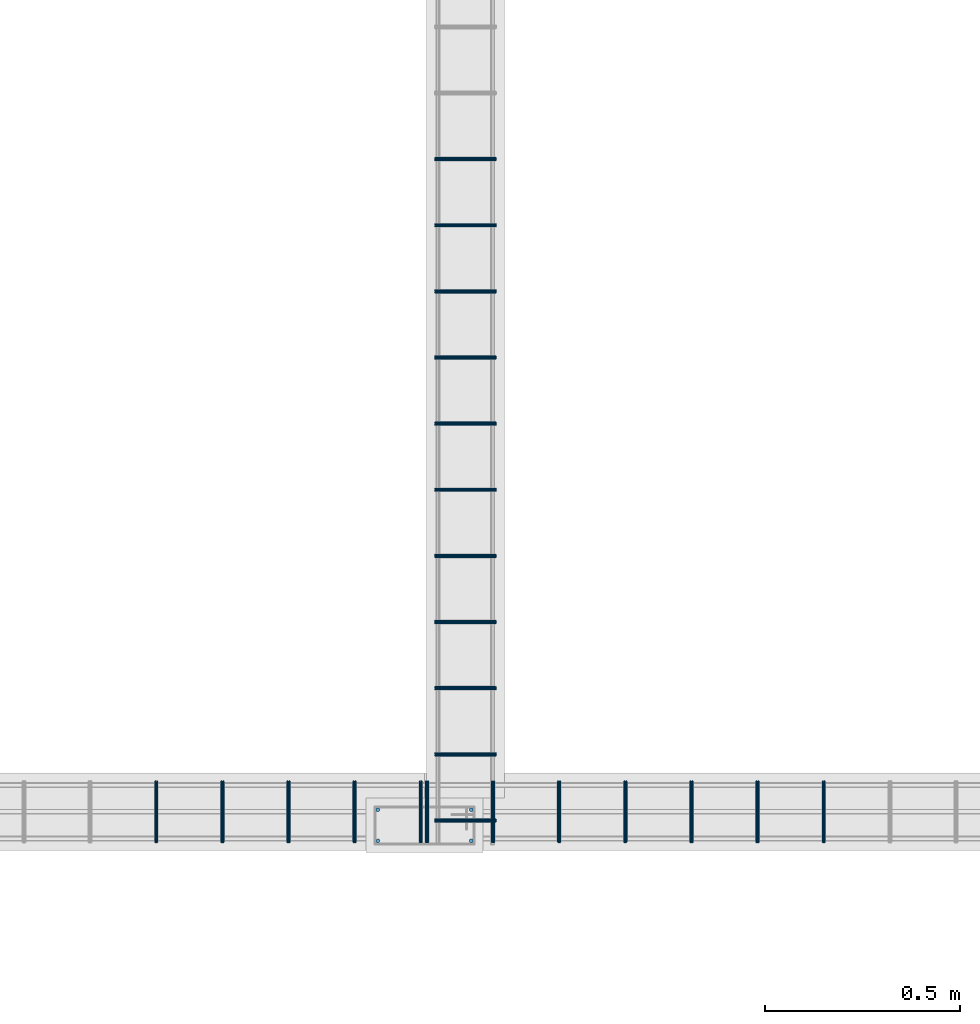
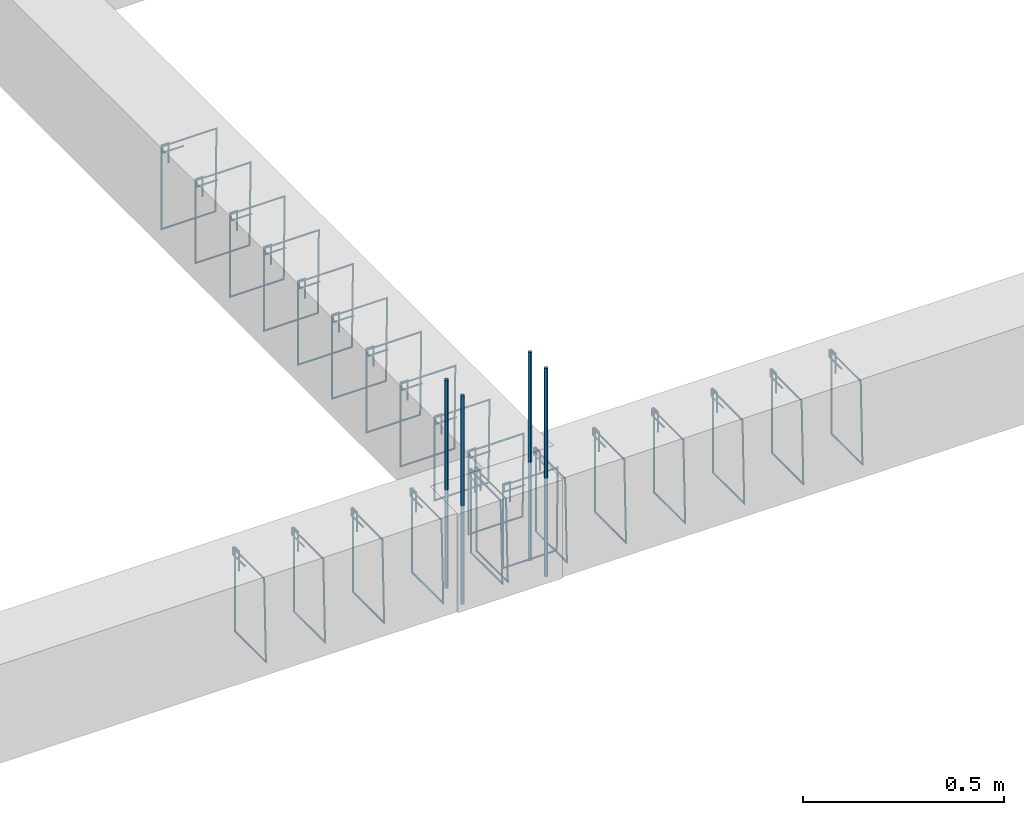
# One storey, part 27 of 150: 27 reinforcing bars.
"""IFC4 building model written with IfcOpenShell, lengths in centimetres."""

from ifc_helpers import new_model, entity, si_unit, derived_unit, frame, origin_with_axes, place, context, project, spatial, source, transform, mapped, element, save


model = new_model("IFC4")

# Units and contexts
model_context = context("Model", 3, precision=1e-05, world=origin_with_axes(), identifier="Body")
ifc_project = project(units=[si_unit("LENGTHUNIT", "METRE", prefix="CENTI"), si_unit("VOLUMEUNIT", "CUBIC_METRE"), si_unit("AREAUNIT", "SQUARE_METRE"), si_unit("POWERUNIT", "WATT"), si_unit("LUMINOUSFLUXUNIT", "LUMEN"), si_unit("ELECTRICCURRENTUNIT", "AMPERE"), si_unit("PRESSUREUNIT", "PASCAL", prefix="KILO"), si_unit("MASSUNIT", "GRAM", prefix="KILO"), si_unit("PLANEANGLEUNIT", "RADIAN"), derived_unit("VOLUMETRICFLOWRATEUNIT", [(si_unit("LENGTHUNIT", "METRE"), 3), (si_unit("TIMEUNIT", "SECOND"), -1)])], contexts=[model_context])

# Site, building, storey
site_placement = place(None, frame((-4000.0, 0.0, 0.0), z_axis=(0.0, 0.0, 1.0), x_axis=(1.0, 0.0, 0.0)))
site = spatial("IfcSite", under=ifc_project, at=site_placement, Name="PADRÃO")
building_placement = place(site_placement, frame((0.0, 0.0, -14.0)))
building = spatial("IfcBuilding", under=site, at=building_placement, Name="CRECHE PRÉ-ESCOLA TIPO 2")
placement = place(building_placement, origin_with_axes())
storey_placement = place(placement, frame((0.0, 0.0, 30.0), z_axis=(0.0, 0.0, 1.0), x_axis=(1.0, 0.0, 0.0)))
storey = spatial("IfcBuildingStorey", under=building, at=storey_placement, Name="VIGA BALDRAME", CompositionType="ELEMENT", Elevation=16.0)

# Reinforcing bars
shared_shape_1 = source(origin_with_axes(), model_context, "Body", "AdvancedSweptSolid", [
    entity("IfcSweptDiskSolid", entity("IfcCompositeCurve", [entity("IfcCompositeCurveSegment", "CONTINUOUS", True, entity("IfcPolyline", [entity("IfcCartesianPoint", [2.0, -6.0, 0.0]), entity("IfcCartesianPoint", [2.0, 0.0, 0.0])])), entity("IfcCompositeCurveSegment", "CONTINUOUS", True, entity("IfcPolyline", [entity("IfcCartesianPoint", [2.0, 0.0, 0.0]), entity("IfcCartesianPoint", [0.0, 0.0, 0.0])])), entity("IfcCompositeCurveSegment", "CONTINUOUS", True, entity("IfcPolyline", [entity("IfcCartesianPoint", [0.0, 0.0, 0.0]), entity("IfcCartesianPoint", [0.0, -25.5, 0.0])])), entity("IfcCompositeCurveSegment", "CONTINUOUS", True, entity("IfcPolyline", [entity("IfcCartesianPoint", [0.0, -25.5, 0.0]), entity("IfcCartesianPoint", [15.5, -25.5, 0.0])])), entity("IfcCompositeCurveSegment", "CONTINUOUS", True, entity("IfcPolyline", [entity("IfcCartesianPoint", [15.5, -25.5, 0.0]), entity("IfcCartesianPoint", [15.5, 0.0, 0.5])])), entity("IfcCompositeCurveSegment", "CONTINUOUS", True, entity("IfcPolyline", [entity("IfcCartesianPoint", [15.5, 0.0, 0.5]), entity("IfcCartesianPoint", [0.0, 0.0, 0.5])])), entity("IfcCompositeCurveSegment", "CONTINUOUS", True, entity("IfcPolyline", [entity("IfcCartesianPoint", [0.0, 0.0, 0.5]), entity("IfcCartesianPoint", [0.0, -2.0, 0.5])])), entity("IfcCompositeCurveSegment", "CONTINUOUS", True, entity("IfcPolyline", [entity("IfcCartesianPoint", [0.0, -2.0, 0.5]), entity("IfcCartesianPoint", [6.0, -2.0, 0.5])]))], False), 0.25),
])
for number, where, z_axis, x_axis, name in (
    (1, (687.75, 1131.005, -2.25), (0.0, -1.0, 0.0), (1.0, 0.0, 0.0), "V175 - Estribo"),
    (2, (687.75, 1199.005, -2.25), (0.0, -1.0, 0.0), (1.0, 0.0, 0.0), "V175 - Estribo"),
    (3, (687.75, 1029.005, -2.25), (0.0, -1.0, 0.0), (1.0, 0.0, 0.0), "V175 - Estribo"),
    (4, (687.75, 1046.005, -2.25), (0.0, -1.0, 0.0), (1.0, 0.0, 0.0), "V175 - Estribo"),
    (5, (687.75, 1063.005, -2.25), (0.0, -1.0, 0.0), (1.0, 0.0, 0.0), "V175 - Estribo"),
    (6, (687.75, 1080.005, -2.25), (0.0, -1.0, 0.0), (1.0, 0.0, 0.0), "V175 - Estribo"),
    (7, (687.75, 1097.005, -2.25), (0.0, -1.0, 0.0), (1.0, 0.0, 0.0), "V175 - Estribo"),
    (8, (687.75, 1182.005, -2.25), (0.0, -1.0, 0.0), (1.0, 0.0, 0.0), "V175 - Estribo"),
    (9, (687.75, 1165.005, -2.25), (0.0, -1.0, 0.0), (1.0, 0.0, 0.0), "V175 - Estribo"),
    (10, (687.75, 1114.005, -2.25), (0.0, -1.0, 0.0), (1.0, 0.0, 0.0), "V175 - Estribo"),
    (11, (687.75, 1148.005, -2.25), (0.0, -1.0, 0.0), (1.0, 0.0, 0.0), "V175 - Estribo"),
):
    element("IfcReinforcingBar", number, at=place(storey_placement, frame(where, z_axis=z_axis, x_axis=x_axis)), inside=storey, Name=name, BarLength=0.0, CrossSectionArea=1.9634954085e-05, NominalDiameter=0.5, PredefinedType="MAIN", context=model_context, shape_type="MappedRepresentation", body=[
        mapped(shared_shape_1, transform((0.0, 0.0, 0.0), scale=1.0)),
    ])
shared_shape_2 = source(origin_with_axes(), model_context, "Body", "AdvancedSweptSolid", [
    entity("IfcSweptDiskSolid", entity("IfcCompositeCurve", [entity("IfcCompositeCurveSegment", "CONTINUOUS", True, entity("IfcPolyline", [entity("IfcCartesianPoint", [2.0, -6.0, 0.0]), entity("IfcCartesianPoint", [2.0, 0.0, 0.0])])), entity("IfcCompositeCurveSegment", "CONTINUOUS", True, entity("IfcPolyline", [entity("IfcCartesianPoint", [2.0, 0.0, 0.0]), entity("IfcCartesianPoint", [0.0, 0.0, 0.0])])), entity("IfcCompositeCurveSegment", "CONTINUOUS", True, entity("IfcPolyline", [entity("IfcCartesianPoint", [0.0, 0.0, 0.0]), entity("IfcCartesianPoint", [0.0, -25.5, 0.0])])), entity("IfcCompositeCurveSegment", "CONTINUOUS", True, entity("IfcPolyline", [entity("IfcCartesianPoint", [0.0, -25.5, 0.0]), entity("IfcCartesianPoint", [15.5, -25.5, 0.0])])), entity("IfcCompositeCurveSegment", "CONTINUOUS", True, entity("IfcPolyline", [entity("IfcCartesianPoint", [15.5, -25.5, 0.0]), entity("IfcCartesianPoint", [15.5, 0.0, 0.5])])), entity("IfcCompositeCurveSegment", "CONTINUOUS", True, entity("IfcPolyline", [entity("IfcCartesianPoint", [15.5, 0.0, 0.5]), entity("IfcCartesianPoint", [0.0, 0.0, 0.5])])), entity("IfcCompositeCurveSegment", "CONTINUOUS", True, entity("IfcPolyline", [entity("IfcCartesianPoint", [0.0, 0.0, 0.5]), entity("IfcCartesianPoint", [0.0, -2.0, 0.5])])), entity("IfcCompositeCurveSegment", "CONTINUOUS", True, entity("IfcPolyline", [entity("IfcCartesianPoint", [0.0, -2.0, 0.5]), entity("IfcCartesianPoint", [6.0, -2.0, 0.5])]))], False), 0.25),
])
for number, where, z_axis, x_axis, name in (
    (12, (633.285, 1038.75, -2.25), (-1.0, 0.0, 0.0), (0.0, -1.0, 0.0), "V140 - Estribo"),
    (13, (650.285, 1038.75, -2.25), (-1.0, 0.0, 0.0), (0.0, -1.0, 0.0), "V140 - Estribo"),
    (14, (667.285, 1038.75, -2.25), (-1.0, 0.0, 0.0), (0.0, -1.0, 0.0), "V140 - Estribo"),
    (15, (684.285, 1038.75, -2.25), (-1.0, 0.0, 0.0), (0.0, -1.0, 0.0), "V140 - Estribo"),
    (16, (616.285, 1038.75, -2.25), (-1.0, 0.0, 0.0), (0.0, -1.0, 0.0), "V140 - Estribo"),
):
    element("IfcReinforcingBar", number, at=place(storey_placement, frame(where, z_axis=z_axis, x_axis=x_axis)), inside=storey, Name=name, BarLength=0.0, CrossSectionArea=1.9634954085e-05, NominalDiameter=0.5, PredefinedType="MAIN", context=model_context, shape_type="MappedRepresentation", body=[
        mapped(shared_shape_2, transform((0.0, 0.0, 0.0), scale=1.0)),
    ])
shared_shape_3 = source(origin_with_axes(), model_context, "Body", "AdvancedSweptSolid", [
    entity("IfcSweptDiskSolid", entity("IfcCompositeCurve", [entity("IfcCompositeCurveSegment", "CONTINUOUS", True, entity("IfcPolyline", [entity("IfcCartesianPoint", [2.0, -6.0, 0.0]), entity("IfcCartesianPoint", [2.0, 0.0, 0.0])])), entity("IfcCompositeCurveSegment", "CONTINUOUS", True, entity("IfcPolyline", [entity("IfcCartesianPoint", [2.0, 0.0, 0.0]), entity("IfcCartesianPoint", [0.0, 0.0, 0.0])])), entity("IfcCompositeCurveSegment", "CONTINUOUS", True, entity("IfcPolyline", [entity("IfcCartesianPoint", [0.0, 0.0, 0.0]), entity("IfcCartesianPoint", [0.0, -25.5, 0.0])])), entity("IfcCompositeCurveSegment", "CONTINUOUS", True, entity("IfcPolyline", [entity("IfcCartesianPoint", [0.0, -25.5, 0.0]), entity("IfcCartesianPoint", [15.5, -25.5, 0.0])])), entity("IfcCompositeCurveSegment", "CONTINUOUS", True, entity("IfcPolyline", [entity("IfcCartesianPoint", [15.5, -25.5, 0.0]), entity("IfcCartesianPoint", [15.5, 0.0, 0.5])])), entity("IfcCompositeCurveSegment", "CONTINUOUS", True, entity("IfcPolyline", [entity("IfcCartesianPoint", [15.5, 0.0, 0.5]), entity("IfcCartesianPoint", [0.0, 0.0, 0.5])])), entity("IfcCompositeCurveSegment", "CONTINUOUS", True, entity("IfcPolyline", [entity("IfcCartesianPoint", [0.0, 0.0, 0.5]), entity("IfcCartesianPoint", [0.0, -2.0, 0.5])])), entity("IfcCompositeCurveSegment", "CONTINUOUS", True, entity("IfcPolyline", [entity("IfcCartesianPoint", [0.0, -2.0, 0.5]), entity("IfcCartesianPoint", [6.0, -2.0, 0.5])]))], False), 0.25),
])
for number, where, z_axis, x_axis, name in (
    (17, (685.86, 1038.75, -2.25), (-1.0, 0.0, 0.0), (0.0, -1.0, 0.0), "V140 - Estribo"),
    (18, (702.86, 1038.75, -2.25), (-1.0, 0.0, 0.0), (0.0, -1.0, 0.0), "V140 - Estribo"),
    (19, (719.86, 1038.75, -2.25), (-1.0, 0.0, 0.0), (0.0, -1.0, 0.0), "V140 - Estribo"),
    (20, (736.86, 1038.75, -2.25), (-1.0, 0.0, 0.0), (0.0, -1.0, 0.0), "V140 - Estribo"),
    (21, (753.86, 1038.75, -2.25), (-1.0, 0.0, 0.0), (0.0, -1.0, 0.0), "V140 - Estribo"),
    (22, (770.86, 1038.75, -2.25), (-1.0, 0.0, 0.0), (0.0, -1.0, 0.0), "V140 - Estribo"),
    (23, (787.86, 1038.75, -2.25), (-1.0, 0.0, 0.0), (0.0, -1.0, 0.0), "V140 - Estribo"),
):
    element("IfcReinforcingBar", number, at=place(storey_placement, frame(where, z_axis=z_axis, x_axis=x_axis)), inside=storey, Name=name, BarLength=0.0, CrossSectionArea=1.9634954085e-05, NominalDiameter=0.5, PredefinedType="MAIN", context=model_context, shape_type="MappedRepresentation", body=[
        mapped(shared_shape_3, transform((0.0, 0.0, 0.0), scale=1.0)),
    ])
for number, where, z_axis, x_axis, name in (
    (24, (697.0, 1023.51, 33.3573001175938), (0.0, 0.0, 1.0), (1.0, 0.0, 0.0), "P118 - Longitudinal"),
    (25, (673.0, 1023.51, 33.3573001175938), (0.0, 0.0, 1.0), (1.0, 0.0, 0.0), "P118 - Longitudinal"),
    (26, (673.0, 1031.51, 33.3573001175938), (0.0, 0.0, 1.0), (1.0, 0.0, 0.0), "P118 - Longitudinal"),
    (27, (697.0, 1031.51, 33.3573001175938), (0.0, 0.0, 1.0), (1.0, 0.0, 0.0), "P118 - Longitudinal"),
):
    element("IfcReinforcingBar", number, at=place(storey_placement, frame(where, z_axis=z_axis, x_axis=x_axis)), inside=storey, Name=name, BarLength=0.0, CrossSectionArea=7.853981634e-05, NominalDiameter=1.0, PredefinedType="MAIN", context=model_context, shape_type="AdvancedSweptSolid", body=[
        entity("IfcSweptDiskSolid", entity("IfcCompositeCurve", [entity("IfcCompositeCurveSegment", "CONTINUOUS", True, entity("IfcPolyline", [entity("IfcCartesianPoint", [0.0, 0.0, -63.3573001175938]), entity("IfcCartesianPoint", [0.0, 0.0, 0.0])]))], False), 0.5),
    ])

save(model, "model.ifc")
